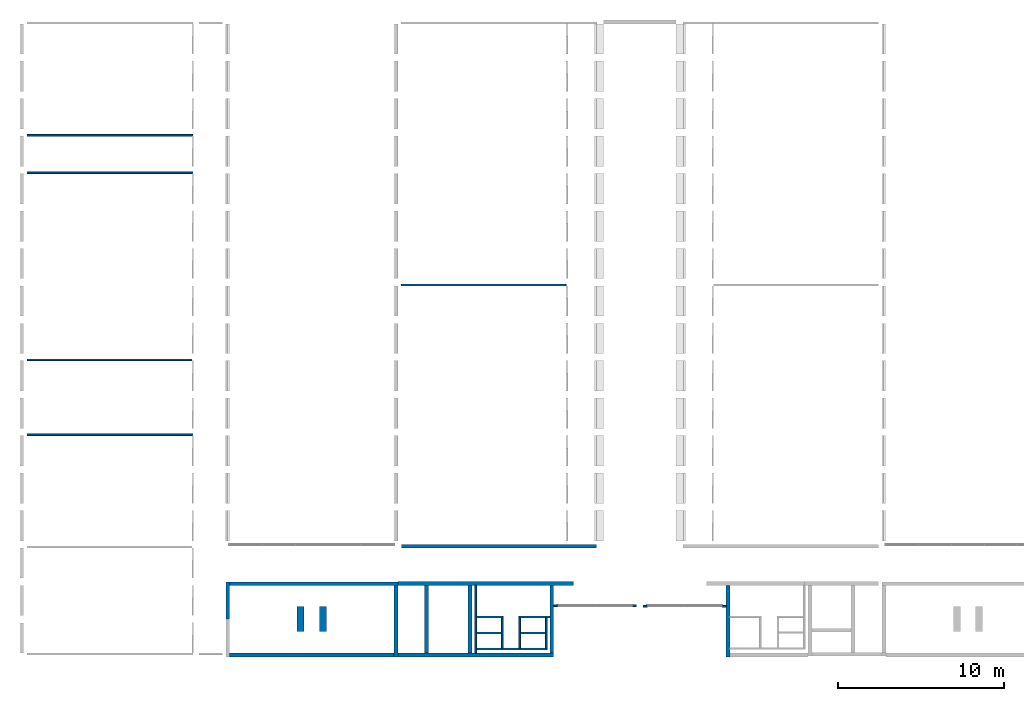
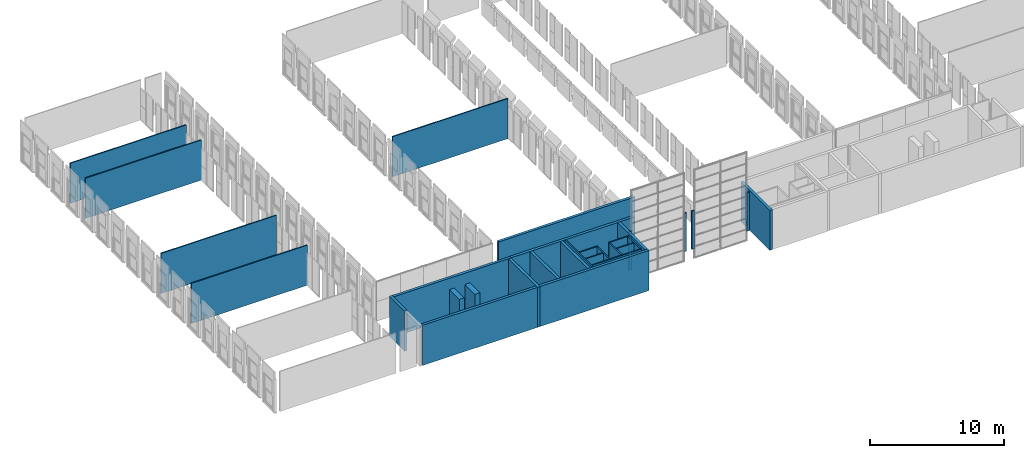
# One storey, part 7 of 16: 31 walls.
"""IFC2X3 building model written with IfcOpenShell, lengths in millimetres."""

from ifc_helpers import new_model, entity, si_unit, converted_unit, derived_unit, direction, frame, frame_2d, origin, place, context, subcontext, project, spatial, rectangle, extrude, material, layer, layer_set, layer_usage, type_object, element, save


model = new_model("IFC2X3")

# Units and contexts
model_context = context("Model", 3, precision=0.01, world=origin(), true_north=direction((6.12303176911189e-17, 1.0)))
body_context = subcontext(model_context, "Body", "Model", "MODEL_VIEW")
ifc_project = project(units=[si_unit("LENGTHUNIT", "METRE", prefix="MILLI"), si_unit("AREAUNIT", "SQUARE_METRE"), si_unit("VOLUMEUNIT", "CUBIC_METRE"), converted_unit("PLANEANGLEUNIT", "DEGREE", entity("IfcRatioMeasure", 0.0174532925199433), si_unit("PLANEANGLEUNIT", "RADIAN"), dimensions=[0, 0, 0, 0, 0, 0, 0]), si_unit("MASSUNIT", "GRAM", prefix="KILO"), derived_unit("MASSDENSITYUNIT", [(si_unit("MASSUNIT", "GRAM", prefix="KILO"), 1), (si_unit("LENGTHUNIT", "METRE"), -3)]), derived_unit("MOMENTOFINERTIAUNIT", [(si_unit("LENGTHUNIT", "METRE"), 4)]), si_unit("TIMEUNIT", "SECOND"), si_unit("FREQUENCYUNIT", "HERTZ"), si_unit("THERMODYNAMICTEMPERATUREUNIT", "DEGREE_CELSIUS"), derived_unit("THERMALTRANSMITTANCEUNIT", [(si_unit("MASSUNIT", "GRAM", prefix="KILO"), 1), (si_unit("THERMODYNAMICTEMPERATUREUNIT", "KELVIN"), -1), (si_unit("TIMEUNIT", "SECOND"), -3)]), derived_unit("VOLUMETRICFLOWRATEUNIT", [(si_unit("LENGTHUNIT", "METRE"), 3), (si_unit("TIMEUNIT", "SECOND"), -1)]), si_unit("ELECTRICCURRENTUNIT", "AMPERE"), si_unit("ELECTRICVOLTAGEUNIT", "VOLT"), si_unit("POWERUNIT", "WATT"), si_unit("FORCEUNIT", "NEWTON", prefix="KILO"), si_unit("ILLUMINANCEUNIT", "LUX"), si_unit("LUMINOUSFLUXUNIT", "LUMEN"), si_unit("LUMINOUSINTENSITYUNIT", "CANDELA"), derived_unit("USERDEFINED", [(si_unit("MASSUNIT", "GRAM", prefix="KILO"), -1), (si_unit("LENGTHUNIT", "METRE"), -2), (si_unit("TIMEUNIT", "SECOND"), 3), (si_unit("LUMINOUSFLUXUNIT", "LUMEN"), 1)]), derived_unit("LINEARVELOCITYUNIT", [(si_unit("LENGTHUNIT", "METRE"), 1), (si_unit("TIMEUNIT", "SECOND"), -1)]), si_unit("PRESSUREUNIT", "PASCAL"), derived_unit("USERDEFINED", [(si_unit("LENGTHUNIT", "METRE"), -2), (si_unit("MASSUNIT", "GRAM", prefix="KILO"), 1), (si_unit("TIMEUNIT", "SECOND"), -2)]), derived_unit("LINEARFORCEUNIT", [(si_unit("MASSUNIT", "GRAM", prefix="KILO"), 1), (si_unit("LENGTHUNIT", "METRE"), 1), (si_unit("TIMEUNIT", "SECOND"), -2), (si_unit("LENGTHUNIT", "METRE"), -1)]), derived_unit("PLANARFORCEUNIT", [(si_unit("MASSUNIT", "GRAM", prefix="KILO"), 1), (si_unit("LENGTHUNIT", "METRE"), 1), (si_unit("TIMEUNIT", "SECOND"), -2), (si_unit("LENGTHUNIT", "METRE"), -2)])], contexts=[model_context])

# Site, building, storey
site_placement = place(None, frame((10627.5135316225, 21939.0796949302, 0.0)))
site = spatial("IfcSite", under=ifc_project, at=site_placement, Name="Default", CompositionType="ELEMENT")
building_placement = place(site_placement, origin())
building = spatial("IfcBuilding", under=site, at=building_placement, CompositionType="ELEMENT")
storey_placement = place(building_placement, frame((0.0, 0.0, 3660.0)))
storey = spatial("IfcBuildingStorey", under=building, at=storey_placement, Name="R+1", CompositionType="ELEMENT", Elevation=3660.0)

# Walls
ifc_material_1 = material(Name="Paint - White Lining")
ifc_layer_1 = layer(ifc_material_1, 3.0)
ifc_material_2 = material(Name="Concrete Masonry Units")
ifc_layer_2 = layer(ifc_material_2, 94.0)
ifc_layer_3 = layer(ifc_material_1, 3.0)
ifc_layer_set_1 = layer_set([ifc_layer_1, ifc_layer_2, ifc_layer_3], Name="Basic Wall:Wall-Int 100")
ifc_layer_usage_1 = layer_usage(ifc_layer_set_1, "AXIS2", "POSITIVE", -50.0)
wall_type_1 = type_object("IfcWallType", Name="Basic Wall:Wall-Int 100", PredefinedType="STANDARD", material=ifc_layer_set_1)
wall_1_placement = place(storey_placement, frame((12177.4864683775, 495.920305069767, 0.0)))
element("IfcWallStandardCase", 1, at=wall_1_placement, inside=storey, type_object=wall_type_1, material=ifc_layer_usage_1, Name="Basic Wall:Wall-Int 100", ObjectType="Basic Wall:Wall-Int 100", context=body_context, shape_type="SweptSolid", body=[
    extrude(rectangle(XDim=9951.0, YDim=100.0, at=frame_2d((4975.5, 0.0), x_axis=(-1.0, 0.0))), origin(), (0.0, 0.0, 1.0), 3660.0),
])
ifc_layer_usage_2 = layer_usage(ifc_layer_set_1, "AXIS2", "POSITIVE", -50.0)
wall_2_placement = place(storey_placement, frame((-10412.5135316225, -4024.07969493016, 0.0)))
element("IfcWallStandardCase", 2, at=wall_2_placement, inside=storey, type_object=wall_type_1, material=ifc_layer_usage_2, Name="Basic Wall:Wall-Int 100", ObjectType="Basic Wall:Wall-Int 100", context=body_context, shape_type="SweptSolid", body=[
    extrude(rectangle(XDim=9949.99999999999, YDim=100.0, at=frame_2d((4975.0, 0.0), x_axis=(-1.0, 0.0))), origin(), (0.0, 0.0, 1.0), 3660.0),
])
ifc_layer_usage_3 = layer_usage(ifc_layer_set_1, "AXIS2", "POSITIVE", -50.0)
wall_3_placement = place(storey_placement, frame((-10412.5135316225, -8544.07969493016, 0.0)))
element("IfcWallStandardCase", 3, at=wall_3_placement, inside=storey, type_object=wall_type_1, material=ifc_layer_usage_3, Name="Basic Wall:Wall-Int 100", ObjectType="Basic Wall:Wall-Int 100", context=body_context, shape_type="SweptSolid", body=[
    extrude(rectangle(XDim=10002.0, YDim=99.9999999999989, at=frame_2d((5001.0, 8.17124146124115e-14), x_axis=(-1.0, 0.0))), origin(), (0.0, 0.0, 1.0), 3660.0),
])
ifc_layer_usage_4 = layer_usage(ifc_layer_set_1, "AXIS2", "POSITIVE", -50.0)
wall_4_placement = place(storey_placement, frame((-10417.1535359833, 7275.69274685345, 0.0)))
element("IfcWallStandardCase", 4, at=wall_4_placement, inside=storey, type_object=wall_type_1, material=ifc_layer_usage_4, Name="Basic Wall:Wall-Int 100", ObjectType="Basic Wall:Wall-Int 100", context=body_context, shape_type="SweptSolid", body=[
    extrude(rectangle(XDim=10006.6400043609, YDim=99.9999999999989, at=frame_2d((5003.32000218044, 6.75015598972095e-14), x_axis=(-1.0, 0.0))), origin(), (0.0, 0.0, 1.0), 3660.0),
])
ifc_layer_usage_5 = layer_usage(ifc_layer_set_1, "AXIS2", "POSITIVE", -50.0)
wall_5_placement = place(storey_placement, frame((-10414.5135316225, 9535.92030506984, 0.0)))
element("IfcWallStandardCase", 5, at=wall_5_placement, inside=storey, type_object=wall_type_1, material=ifc_layer_usage_5, Name="Basic Wall:Wall-Int 100", ObjectType="Basic Wall:Wall-Int 100", context=body_context, shape_type="SweptSolid", body=[
    extrude(rectangle(XDim=10004.0, YDim=99.9999999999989, at=frame_2d((5002.0, 8.5265128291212e-14), x_axis=(-1.0, 0.0))), origin(), (0.0, 0.0, 1.0), 3660.0),
])
ifc_layer_usage_6 = layer_usage(ifc_layer_set_1, "AXIS2", "POSITIVE", -50.0)
wall_6_placement = place(storey_placement, frame((16667.8893211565, -17634.0796949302, 0.0), z_axis=(0.0, 0.0, 1.0), x_axis=(0.0, -1.0, 0.0)))
element("IfcWallStandardCase", 6, at=wall_6_placement, inside=storey, type_object=wall_type_1, material=ifc_layer_usage_6, Name="Basic Wall:Wall-Int 100", ObjectType="Basic Wall:Wall-Int 100", context=body_context, shape_type="SweptSolid", body=[
    extrude(rectangle(XDim=4090.0, YDim=99.9999999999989, at=frame_2d((2045.0, -8.88178419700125e-14), x_axis=(-1.0, 0.0))), origin(), (0.0, 0.0, 1.0), 3660.0),
])
ifc_layer_usage_7 = layer_usage(ifc_layer_set_1, "AXIS2", "POSITIVE", -50.0)
wall_7_placement = place(storey_placement, frame((18317.8893211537, -19544.3072488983, 0.0), z_axis=(0.0, 0.0, 1.0), x_axis=(-1.0, 0.0, 0.0)))
element("IfcWallStandardCase", 7, at=wall_7_placement, inside=storey, type_object=wall_type_1, material=ifc_layer_usage_7, Name="Basic Wall:Wall-Int 100", ObjectType="Basic Wall:Wall-Int 100", context=body_context, shape_type="SweptSolid", body=[
    extrude(rectangle(XDim=1599.99999999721, YDim=100.000000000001, at=frame_2d((799.999999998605, 1.01607611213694e-12), x_axis=(-1.0, 0.0))), origin(), (0.0, 0.0, 1.0), 3660.0),
])
ifc_layer_usage_8 = layer_usage(ifc_layer_set_1, "AXIS2", "POSITIVE", -50.0)
wall_8_placement = place(storey_placement, frame((18217.8893211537, -20509.3072488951, 0.0), z_axis=(0.0, 0.0, 1.0), x_axis=(-1.0, 0.0, 0.0)))
element("IfcWallStandardCase", 8, at=wall_8_placement, inside=storey, type_object=wall_type_1, material=ifc_layer_usage_8, Name="Basic Wall:Wall-Int 100", ObjectType="Basic Wall:Wall-Int 100", context=body_context, shape_type="SweptSolid", body=[
    extrude(rectangle(XDim=1499.99999999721, YDim=100.000000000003, at=frame_2d((749.999999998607, -1.98951966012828e-13), x_axis=(-1.0, 0.0))), origin(), (0.0, 0.0, 1.0), 3660.0),
])
ifc_layer_usage_9 = layer_usage(ifc_layer_set_1, "AXIS2", "NEGATIVE", 50.0)
wall_9_placement = place(storey_placement, frame((20977.8607497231, -21474.3072488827, 0.0), z_axis=(0.0, 0.0, 1.0), x_axis=(-1.0, 0.0, 0.0)))
element("IfcWallStandardCase", 9, at=wall_9_placement, inside=storey, type_object=wall_type_1, material=ifc_layer_usage_9, Name="Basic Wall:Wall-Int 100", ObjectType="Basic Wall:Wall-Int 100", context=body_context, shape_type="SweptSolid", body=[
    extrude(rectangle(XDim=4259.97142856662, YDim=100.000000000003, at=frame_2d((2129.98571428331, -1.49213974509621e-13), x_axis=(-1.0, 0.0))), origin(), (0.0, 0.0, 1.0), 3660.0),
])
ifc_layer_usage_10 = layer_usage(ifc_layer_set_1, "AXIS2", "POSITIVE", -50.0)
wall_10_placement = place(storey_placement, frame((18267.8893211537, -21424.3072488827, 0.0), z_axis=(0.0, 0.0, 1.0), x_axis=(0.0, 1.0, 0.0)))
element("IfcWallStandardCase", 10, at=wall_10_placement, inside=storey, type_object=wall_type_1, material=ifc_layer_usage_10, Name="Basic Wall:Wall-Int 100", ObjectType="Basic Wall:Wall-Int 100", context=body_context, shape_type="SweptSolid", body=[
    extrude(rectangle(XDim=1829.99999998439, YDim=99.9999999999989, at=frame_2d((914.999999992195, -7.8159700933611e-14), x_axis=(-1.0, 0.0))), origin(), (0.0, 0.0, 1.0), 3660.0),
])
ifc_layer_usage_11 = layer_usage(ifc_layer_set_1, "AXIS2", "NEGATIVE", 50.0)
wall_11_placement = place(storey_placement, frame((19277.8607497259, -19544.3072488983, 0.0)))
element("IfcWallStandardCase", 11, at=wall_11_placement, inside=storey, type_object=wall_type_1, material=ifc_layer_usage_11, Name="Basic Wall:Wall-Int 100", ObjectType="Basic Wall:Wall-Int 100", context=body_context, shape_type="SweptSolid", body=[
    extrude(rectangle(XDim=1869.62571865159, YDim=99.9999999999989, at=frame_2d((934.812859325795, -1.27187149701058e-12), x_axis=(-1.0, 0.0))), origin(), (0.0, 0.0, 1.0), 3660.0),
])
ifc_layer_usage_12 = layer_usage(ifc_layer_set_1, "AXIS2", "NEGATIVE", 50.0)
wall_12_placement = place(storey_placement, frame((20927.8607497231, -19594.3072488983, 0.0), z_axis=(0.0, 0.0, 1.0), x_axis=(0.0, -1.0, 0.0)))
element("IfcWallStandardCase", 12, at=wall_12_placement, inside=storey, type_object=wall_type_1, material=ifc_layer_usage_12, Name="Basic Wall:Wall-Int 100", ObjectType="Basic Wall:Wall-Int 100", context=body_context, shape_type="SweptSolid", body=[
    extrude(rectangle(XDim=1829.99999998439, YDim=100.000000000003, at=frame_2d((914.999999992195, -1.59872115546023e-13), x_axis=(-1.0, 0.0))), origin(), (0.0, 0.0, 1.0), 3660.0),
])
ifc_layer_usage_13 = layer_usage(ifc_layer_set_1, "AXIS2", "POSITIVE", -50.0)
wall_13_placement = place(storey_placement, frame((19327.8607497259, -19594.3072488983, 0.0), z_axis=(0.0, 0.0, 1.0), x_axis=(0.0, -1.0, 0.0)))
element("IfcWallStandardCase", 13, at=wall_13_placement, inside=storey, type_object=wall_type_1, material=ifc_layer_usage_13, Name="Basic Wall:Wall-Int 100", ObjectType="Basic Wall:Wall-Int 100", context=body_context, shape_type="SweptSolid", body=[
    extrude(rectangle(XDim=1829.99999998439, YDim=99.9999999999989, at=frame_2d((914.999999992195, -7.8159700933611e-14), x_axis=(-1.0, 0.0))), origin(), (0.0, 0.0, 1.0), 3660.0),
])
ifc_layer_usage_14 = layer_usage(ifc_layer_set_1, "AXIS2", "NEGATIVE", 50.0)
wall_14_placement = place(storey_placement, frame((19377.8607497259, -20509.3072488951, 0.0)))
element("IfcWallStandardCase", 14, at=wall_14_placement, inside=storey, type_object=wall_type_1, material=ifc_layer_usage_14, Name="Basic Wall:Wall-Int 100", ObjectType="Basic Wall:Wall-Int 100", context=body_context, shape_type="SweptSolid", body=[
    extrude(rectangle(XDim=1499.99999999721, YDim=100.000000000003, at=frame_2d((749.999999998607, -7.105427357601e-14), x_axis=(-1.0, 0.0))), origin(), (0.0, 0.0, 1.0), 3660.0),
])
ifc_layer_usage_15 = layer_usage(ifc_layer_set_1, "AXIS2", "NEGATIVE", 50.0)
wall_15_placement = place(storey_placement, frame((26362.4864683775, -18870.8331484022, 0.0), z_axis=(0.0, 0.0, 1.0), x_axis=(-1.0, 0.0, 0.0)))
element("IfcWallStandardCase", 15, at=wall_15_placement, inside=storey, type_object=wall_type_1, material=ifc_layer_usage_15, Name="Basic Wall:Wall-Int 100", ObjectType="Basic Wall:Wall-Int 100", context=body_context, shape_type="SweptSolid", body=[
    extrude(rectangle(XDim=226.024865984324, YDim=99.9999999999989, at=frame_2d((113.012432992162, 0.0), x_axis=(-1.0, 0.0))), origin(), (0.0, 0.0, 1.0), 3520.0),
])
ifc_layer_usage_16 = layer_usage(ifc_layer_set_1, "AXIS2", "NEGATIVE", 50.0)
wall_16_placement = place(storey_placement, frame((21616.4616023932, -18870.8331484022, 0.0), z_axis=(0.0, 0.0, 1.0), x_axis=(-1.0, 0.0, 0.0)))
element("IfcWallStandardCase", 16, at=wall_16_placement, inside=storey, type_object=wall_type_1, material=ifc_layer_usage_16, Name="Basic Wall:Wall-Int 100", ObjectType="Basic Wall:Wall-Int 100", context=body_context, shape_type="SweptSolid", body=[
    extrude(rectangle(XDim=238.975134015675, YDim=99.9999999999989, at=frame_2d((119.487567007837, 0.0), x_axis=(-1.0, 0.0))), origin(), (0.0, 0.0, 1.0), 3520.0),
])
ifc_layer_usage_17 = layer_usage(ifc_layer_set_1, "AXIS2", "POSITIVE", -50.0)
wall_17_placement = place(storey_placement, frame((26792.4864683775, -18895.8331484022, 0.0)))
element("IfcWallStandardCase", 17, at=wall_17_placement, inside=storey, type_object=wall_type_1, material=ifc_layer_usage_17, Name="Basic Wall:Wall-Int 100", ObjectType="Basic Wall:Wall-Int 100", context=body_context, shape_type="SweptSolid", body=[
    extrude(rectangle(XDim=226.024865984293, YDim=99.9999999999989, at=frame_2d((113.012432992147, 0.0), x_axis=(-1.0, 0.0))), origin(), (0.0, 0.0, 1.0), 3520.0),
])
ifc_layer_usage_18 = layer_usage(ifc_layer_set_1, "AXIS2", "POSITIVE", -50.0)
wall_18_placement = place(storey_placement, frame((31538.5113343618, -18895.8331484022, 0.0)))
element("IfcWallStandardCase", 18, at=wall_18_placement, inside=storey, type_object=wall_type_1, material=ifc_layer_usage_18, Name="Basic Wall:Wall-Int 100", ObjectType="Basic Wall:Wall-Int 100", context=body_context, shape_type="SweptSolid", body=[
    extrude(rectangle(XDim=244.335129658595, YDim=99.9999999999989, at=frame_2d((122.167564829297, 0.0), x_axis=(-1.0, 0.0))), origin(), (0.0, 0.0, 1.0), 3520.0),
])
ifc_layer_4 = layer(ifc_material_1, 15.0)
ifc_material_3 = material(Name="Concrete - Precast Concrete - 35 MPa")
ifc_layer_5 = layer(ifc_material_3, 400.0)
ifc_layer_6 = layer(ifc_material_1, 15.0)
ifc_layer_set_2 = layer_set([ifc_layer_4, ifc_layer_5, ifc_layer_6], Name="Basic Wall:Mur430PentureBlanche")
ifc_layer_usage_19 = layer_usage(ifc_layer_set_2, "AXIS2", "NEGATIVE", 215.0)
wall_type_2 = type_object("IfcWallType", Name="Basic Wall:Mur430PentureBlanche", PredefinedType="STANDARD", material=ifc_layer_set_2)
wall_19_placement = place(storey_placement, frame((6095.06645789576, -18920.8001977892, 0.0), z_axis=(0.0, 0.0, 1.0), x_axis=(0.0, -1.0, 0.0)))
element("IfcWallStandardCase", 19, at=wall_19_placement, inside=storey, type_object=wall_type_2, material=ifc_layer_usage_19, Name="Basic Wall:Mur430PentureBlanche", ObjectType="Basic Wall:Mur430PentureBlanche", context=body_context, shape_type="SweptSolid", body=[
    extrude(rectangle(XDim=1490.00177328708, YDim=430.0, at=frame_2d((745.000886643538, 0.0), x_axis=(-1.0, 0.0))), origin(), (0.0, 0.0, 1.0), 3660.0),
])
ifc_layer_usage_20 = layer_usage(ifc_layer_set_2, "AXIS2", "NEGATIVE", 215.0)
wall_20_placement = place(storey_placement, frame((7440.06857035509, -18920.8001977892, 0.0), z_axis=(0.0, 0.0, 1.0), x_axis=(0.0, -1.0, 0.0)))
element("IfcWallStandardCase", 20, at=wall_20_placement, inside=storey, type_object=wall_type_2, material=ifc_layer_usage_20, Name="Basic Wall:Mur430PentureBlanche", ObjectType="Basic Wall:Mur430PentureBlanche", context=body_context, shape_type="SweptSolid", body=[
    extrude(rectangle(XDim=1490.00177328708, YDim=430.0, at=frame_2d((745.000886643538, 0.0), x_axis=(-1.0, 0.0))), origin(), (0.0, 0.0, 1.0), 3660.0),
])
ifc_layer_7 = layer(ifc_material_1, 15.0)
ifc_layer_8 = layer(ifc_material_3, 200.0)
ifc_layer_9 = layer(ifc_material_1, 15.0)
ifc_layer_set_3 = layer_set([ifc_layer_7, ifc_layer_8, ifc_layer_9], Name="Basic Wall:Mur200PentureBlanche 2")
ifc_layer_usage_21 = layer_usage(ifc_layer_set_3, "AXIS2", "POSITIVE", -115.0)
wall_type_3 = type_object("IfcWallType", Name="Basic Wall:Mur200PentureBlanche 2", PredefinedType="STANDARD", material=ifc_layer_set_3)
wall_21_placement = place(storey_placement, frame((1695.48646837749, -19679.0796949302, 0.0), z_axis=(0.0, 0.0, 1.0), x_axis=(0.0, 1.0, 0.0)))
element("IfcWallStandardCase", 21, at=wall_21_placement, inside=storey, type_object=wall_type_3, material=ifc_layer_usage_21, Name="Basic Wall:Mur200PentureBlanche 2", ObjectType="Basic Wall:Mur200PentureBlanche 2", context=body_context, shape_type="SweptSolid", body=[
    extrude(rectangle(XDim=2259.99999999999, YDim=230.0, at=frame_2d((1130.0, -5.6843418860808e-14), x_axis=(-1.0, 0.0))), origin(), (0.0, 0.0, 1.0), 3660.0),
])
ifc_layer_usage_22 = layer_usage(ifc_layer_set_3, "AXIS2", "POSITIVE", -115.0)
wall_22_placement = place(storey_placement, frame((1810.4864683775, -17534.0796949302, 0.0)))
element("IfcWallStandardCase", 22, at=wall_22_placement, inside=storey, type_object=wall_type_3, material=ifc_layer_usage_22, Name="Basic Wall:Mur200PentureBlanche 2", ObjectType="Basic Wall:Mur200PentureBlanche 2", context=body_context, shape_type="SweptSolid", body=[
    extrude(rectangle(XDim=10152.0, YDim=230.0, at=frame_2d((5076.0, 3.19744231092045e-13), x_axis=(-1.0, 0.0))), origin(), (0.0, 0.0, 1.0), 3660.0),
])
ifc_layer_usage_23 = layer_usage(ifc_layer_set_3, "AXIS2", "POSITIVE", -115.0)
wall_23_placement = place(storey_placement, frame((11847.4864683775, -17649.0796949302, 0.0), z_axis=(0.0, 0.0, 1.0), x_axis=(0.0, -1.0, 0.0)))
element("IfcWallStandardCase", 23, at=wall_23_placement, inside=storey, type_object=wall_type_3, material=ifc_layer_usage_23, Name="Basic Wall:Mur200PentureBlanche 2", ObjectType="Basic Wall:Mur200PentureBlanche 2", context=body_context, shape_type="SweptSolid", body=[
    extrude(rectangle(XDim=4304.99999999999, YDim=230.0, at=frame_2d((2152.5, 1.56319401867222e-13), x_axis=(-1.0, 0.0))), origin(), (0.0, 0.0, 1.0), 3660.0),
])
ifc_layer_usage_24 = layer_usage(ifc_layer_set_3, "AXIS2", "NEGATIVE", 115.0)
wall_24_placement = place(storey_placement, frame((11962.4864683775, -17519.0796949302, 0.0)))
element("IfcWallStandardCase", 24, at=wall_24_placement, inside=storey, type_object=wall_type_3, material=ifc_layer_usage_24, Name="Basic Wall:Mur200PentureBlanche 2", ObjectType="Basic Wall:Mur200PentureBlanche 2", context=body_context, shape_type="SweptSolid", body=[
    extrude(rectangle(XDim=10600.0, YDim=230.0, at=frame_2d((5300.0, -5.6843418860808e-14), x_axis=(-1.0, 0.0))), origin(), (0.0, 0.0, 1.0), 3660.0),
])
ifc_layer_usage_25 = layer_usage(ifc_layer_set_3, "AXIS2", "NEGATIVE", 115.0)
wall_25_placement = place(storey_placement, frame((13692.4864683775, -17634.0796949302, 0.0), z_axis=(0.0, 0.0, 1.0), x_axis=(0.0, -1.0, 0.0)))
element("IfcWallStandardCase", 25, at=wall_25_placement, inside=storey, type_object=wall_type_3, material=ifc_layer_usage_25, Name="Basic Wall:Mur200PentureBlanche 2", ObjectType="Basic Wall:Mur200PentureBlanche 2", context=body_context, shape_type="SweptSolid", body=[
    extrude(rectangle(XDim=4089.99999999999, YDim=230.0, at=frame_2d((2045.0, -2.41584530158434e-13), x_axis=(-1.0, 0.0))), origin(), (0.0, 0.0, 1.0), 3660.0),
])
ifc_layer_usage_26 = layer_usage(ifc_layer_set_3, "AXIS2", "POSITIVE", -115.0)
wall_26_placement = place(storey_placement, frame((11962.4864683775, -21839.0796949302, 0.0)))
element("IfcWallStandardCase", 26, at=wall_26_placement, inside=storey, type_object=wall_type_3, material=ifc_layer_usage_26, Name="Basic Wall:Mur200PentureBlanche 2", ObjectType="Basic Wall:Mur200PentureBlanche 2", context=body_context, shape_type="SweptSolid", body=[
    extrude(rectangle(XDim=9415.0, YDim=230.0, at=frame_2d((4707.5, 7.105427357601e-15), x_axis=(-1.0, 0.0))), origin(), (0.0, 0.0, 1.0), 3660.0),
])
ifc_layer_usage_27 = layer_usage(ifc_layer_set_3, "AXIS2", "NEGATIVE", 115.0)
wall_27_placement = place(storey_placement, frame((21262.4864683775, -17634.0796949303, 0.0), z_axis=(0.0, 0.0, 1.0), x_axis=(0.0, -1.0, 0.0)))
element("IfcWallStandardCase", 27, at=wall_27_placement, inside=storey, type_object=wall_type_3, material=ifc_layer_usage_27, Name="Basic Wall:Mur200PentureBlanche 2", ObjectType="Basic Wall:Mur200PentureBlanche 2", context=body_context, shape_type="SweptSolid", body=[
    extrude(rectangle(XDim=4089.99999999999, YDim=230.0, at=frame_2d((2045.0, -2.27373675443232e-13), x_axis=(-1.0, 0.0))), origin(), (0.0, 0.0, 1.0), 3660.0),
])
ifc_layer_usage_28 = layer_usage(ifc_layer_set_3, "AXIS2", "POSITIVE", -115.0)
wall_28_placement = place(storey_placement, frame((16317.8893211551, -17634.0796949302, 0.0), z_axis=(0.0, 0.0, 1.0), x_axis=(0.0, -1.0, 0.0)))
element("IfcWallStandardCase", 28, at=wall_28_placement, inside=storey, type_object=wall_type_3, material=ifc_layer_usage_28, Name="Basic Wall:Mur200PentureBlanche 2", ObjectType="Basic Wall:Mur200PentureBlanche 2", context=body_context, shape_type="SweptSolid", body=[
    extrude(rectangle(XDim=4089.99999999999, YDim=230.0, at=frame_2d((2045.0, -1.70530256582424e-13), x_axis=(-1.0, 0.0))), origin(), (0.0, 0.0, 1.0), 3660.0),
])
ifc_layer_usage_29 = layer_usage(ifc_layer_set_3, "AXIS2", "POSITIVE", -115.0)
wall_29_placement = place(storey_placement, frame((31897.8464640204, -17634.0796949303, 0.0), z_axis=(0.0, 0.0, 1.0), x_axis=(0.0, -1.0, 0.0)))
element("IfcWallStandardCase", 29, at=wall_29_placement, inside=storey, type_object=wall_type_3, material=ifc_layer_usage_29, Name="Basic Wall:Mur200PentureBlanche 2", ObjectType="Basic Wall:Mur200PentureBlanche 2", context=body_context, shape_type="SweptSolid", body=[
    extrude(rectangle(XDim=4319.99999999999, YDim=230.0, at=frame_2d((2160.0, -9.9475983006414e-14), x_axis=(-1.0, 0.0))), origin(), (0.0, 0.0, 1.0), 3660.0),
])
ifc_layer_usage_30 = layer_usage(ifc_layer_set_3, "AXIS2", "POSITIVE", -115.0)
wall_30_placement = place(storey_placement, frame((12177.4864683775, -15274.0796949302, 0.0)))
element("IfcWallStandardCase", 30, at=wall_30_placement, inside=storey, type_object=wall_type_3, material=ifc_layer_usage_30, Name="Basic Wall:Mur200PentureBlanche 2", ObjectType="Basic Wall:Mur200PentureBlanche 2", context=body_context, shape_type="SweptSolid", body=[
    extrude(rectangle(XDim=11782.0, YDim=230.0, at=frame_2d((5891.0, 0.0), x_axis=(-1.0, 0.0))), origin(), (0.0, 0.0, 1.0), 3660.0),
])
ifc_layer_usage_31 = layer_usage(ifc_layer_set_3, "AXIS2", "NEGATIVE", 115.0)
wall_31_placement = place(storey_placement, frame((1812.48646837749, -21839.0796949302, 0.0)))
element("IfcWallStandardCase", 31, at=wall_31_placement, inside=storey, type_object=wall_type_3, material=ifc_layer_usage_31, Name="Basic Wall:Mur200PentureBlanche 2", ObjectType="Basic Wall:Mur200PentureBlanche 2", context=body_context, shape_type="SweptSolid", body=[
    extrude(rectangle(XDim=9920.0, YDim=230.0, at=frame_2d((4960.0, -1.77635683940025e-13), x_axis=(-1.0, 0.0))), origin(), (0.0, 0.0, 1.0), 3660.0),
])

save(model, "model.ifc")
